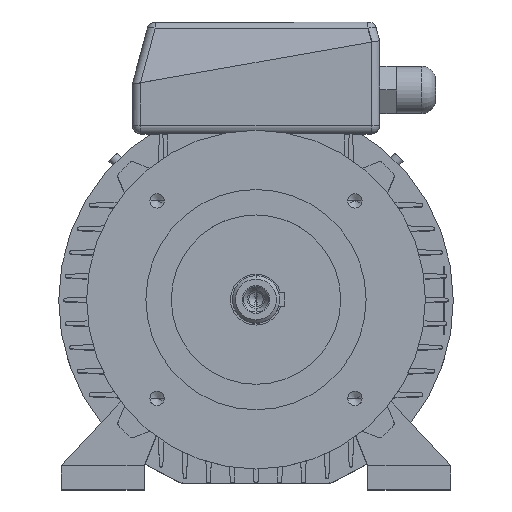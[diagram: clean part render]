
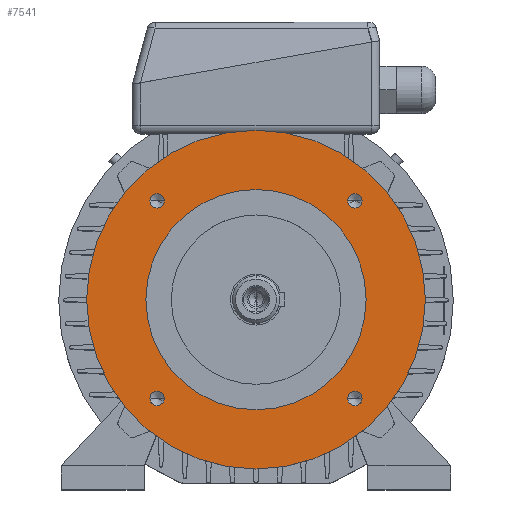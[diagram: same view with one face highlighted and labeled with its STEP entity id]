
A CAD part, top view. The second image highlights one B-rep face of the part: STEP entity #7541.
In plain terms, the highlighted planar face has unit normal (0, 0, 1).
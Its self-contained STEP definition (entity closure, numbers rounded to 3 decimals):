
#118 = EDGE_LOOP ( 'NONE', ( #15427, #15284 ) ) ;
#190 = ORIENTED_EDGE ( 'NONE', *, *, #14454, .F. ) ;
#3673 = CARTESIAN_POINT ( 'NONE',  ( 100., 0., 51. ) ) ;
#3846 = CIRCLE ( 'NONE', #3847, 100. ) ;
#3847 = AXIS2_PLACEMENT_3D ( 'NONE', #3848, #3849, #3850 ) ;
#3848 = CARTESIAN_POINT ( 'NONE',  ( 0., 0., 51. ) ) ;
#3849 = DIRECTION ( 'NONE',  ( 0., 0., 1. ) ) ;
#3850 = DIRECTION ( 'NONE',  ( 1., 0., 0. ) ) ;
#4325 = CARTESIAN_POINT ( 'NONE',  ( -100., 0., 51. ) ) ;
#4561 = CIRCLE ( 'NONE', #4562, 4.25 ) ;
#4562 = AXIS2_PLACEMENT_3D ( 'NONE', #4568, #4569, #4570 ) ;
#4568 = CARTESIAN_POINT ( 'NONE',  ( -58.336, 58.336, 51. ) ) ;
#4569 = DIRECTION ( 'NONE',  ( 0., 0., 1. ) ) ;
#4570 = DIRECTION ( 'NONE',  ( 1., 0., 0. ) ) ;
#4630 = VERTEX_POINT ( 'NONE', #3673 ) ;
#4894 = EDGE_CURVE ( 'NONE', #4630, #5887, #3846, .T. ) ;
#5662 = ORIENTED_EDGE ( 'NONE', *, *, #15011, .F. ) ;
#5803 = CARTESIAN_POINT ( 'NONE',  ( 62.586, -58.336, 51. ) ) ;
#5887 = VERTEX_POINT ( 'NONE', #4325 ) ;
#5946 = FACE_BOUND ( 'NONE', #7280, .T. ) ;
#5947 = FACE_BOUND ( 'NONE', #14321, .T. ) ;
#5948 = FACE_BOUND ( 'NONE', #13793, .T. ) ;
#5949 = FACE_BOUND ( 'NONE', #12283, .T. ) ;
#5961 = FACE_BOUND ( 'NONE', #118, .T. ) ;
#5962 = FACE_OUTER_BOUND ( 'NONE', #15110, .T. ) ;
#5963 = PLANE ( 'NONE',  #5964 ) ;
#5964 = AXIS2_PLACEMENT_3D ( 'NONE', #5965, #5966, #5967 ) ;
#5965 = CARTESIAN_POINT ( 'NONE',  ( 0., 100., 51. ) ) ;
#5966 = DIRECTION ( 'NONE',  ( 0., 0., -1. ) ) ;
#5967 = DIRECTION ( 'NONE',  ( -1., 0., 0. ) ) ;
#6238 = CIRCLE ( 'NONE', #6239, 100. ) ;
#6239 = AXIS2_PLACEMENT_3D ( 'NONE', #6240, #6241, #6242 ) ;
#6240 = CARTESIAN_POINT ( 'NONE',  ( 0., 0., 51. ) ) ;
#6241 = DIRECTION ( 'NONE',  ( 0., 0., 1. ) ) ;
#6242 = DIRECTION ( 'NONE',  ( 1., 0., 0. ) ) ;
#6263 = EDGE_CURVE ( 'NONE', #14949, #15265, #4561, .T. ) ;
#6689 = ORIENTED_EDGE ( 'NONE', *, *, #6263, .F. ) ;
#6823 = CARTESIAN_POINT ( 'NONE',  ( 62.586, 58.336, 51. ) ) ;
#7006 = CIRCLE ( 'NONE', #7007, 4.25 ) ;
#7007 = AXIS2_PLACEMENT_3D ( 'NONE', #7008, #7009, #7010 ) ;
#7008 = CARTESIAN_POINT ( 'NONE',  ( 58.336, 58.336, 51. ) ) ;
#7009 = DIRECTION ( 'NONE',  ( 0., 0., 1. ) ) ;
#7010 = DIRECTION ( 'NONE',  ( 1., 0., 0. ) ) ;
#7278 = VERTEX_POINT ( 'NONE', #5803 ) ;
#7280 = EDGE_LOOP ( 'NONE', ( #6689, #5662 ) ) ;
#7541 = ADVANCED_FACE ( 'NONE', ( #5946, #5947, #5948, #5949, #5961, #5962 ), #5963, .F. ) ;
#7649 = CARTESIAN_POINT ( 'NONE',  ( 54.086, 58.336, 51. ) ) ;
#7998 = EDGE_CURVE ( 'NONE', #5887, #4630, #6238, .T. ) ;
#8202 = CIRCLE ( 'NONE', #8203, 4.25 ) ;
#8203 = AXIS2_PLACEMENT_3D ( 'NONE', #8204, #8212, #8213 ) ;
#8204 = CARTESIAN_POINT ( 'NONE',  ( -58.336, -58.336, 51. ) ) ;
#8212 = DIRECTION ( 'NONE',  ( 0., 0., 1. ) ) ;
#8213 = DIRECTION ( 'NONE',  ( 1., 0., 0. ) ) ;
#9050 = VERTEX_POINT ( 'NONE', #6823 ) ;
#9204 = CIRCLE ( 'NONE', #9205, 4.25 ) ;
#9205 = AXIS2_PLACEMENT_3D ( 'NONE', #9206, #9207, #9208 ) ;
#9206 = CARTESIAN_POINT ( 'NONE',  ( 58.336, -58.336, 51. ) ) ;
#9207 = DIRECTION ( 'NONE',  ( 0., 0., 1. ) ) ;
#9208 = DIRECTION ( 'NONE',  ( 1., 0., 0. ) ) ;
#9232 = CARTESIAN_POINT ( 'NONE',  ( -65., 0., 51. ) ) ;
#9301 = EDGE_CURVE ( 'NONE', #10333, #9050, #7006, .T. ) ;
#9359 = CARTESIAN_POINT ( 'NONE',  ( 65., 0., 51. ) ) ;
#9523 = CIRCLE ( 'NONE', #9524, 65. ) ;
#9524 = AXIS2_PLACEMENT_3D ( 'NONE', #9525, #9526, #9527 ) ;
#9525 = CARTESIAN_POINT ( 'NONE',  ( 0., 0., 51. ) ) ;
#9526 = DIRECTION ( 'NONE',  ( 0., 0., 1. ) ) ;
#9527 = DIRECTION ( 'NONE',  ( 1., 0., 0. ) ) ;
#10221 = CIRCLE ( 'NONE', #10222, 4.25 ) ;
#10222 = AXIS2_PLACEMENT_3D ( 'NONE', #10223, #10224, #10225 ) ;
#10223 = CARTESIAN_POINT ( 'NONE',  ( 58.336, 58.336, 51. ) ) ;
#10224 = DIRECTION ( 'NONE',  ( 0., 0., 1. ) ) ;
#10225 = DIRECTION ( 'NONE',  ( 1., 0., 0. ) ) ;
#10333 = VERTEX_POINT ( 'NONE', #7649 ) ;
#11066 = CARTESIAN_POINT ( 'NONE',  ( -54.086, -58.336, 51. ) ) ;
#11193 = CIRCLE ( 'NONE', #11204, 4.25 ) ;
#11204 = AXIS2_PLACEMENT_3D ( 'NONE', #11205, #11206, #11207 ) ;
#11205 = CARTESIAN_POINT ( 'NONE',  ( -58.336, -58.336, 51. ) ) ;
#11206 = DIRECTION ( 'NONE',  ( 0., 0., 1. ) ) ;
#11207 = DIRECTION ( 'NONE',  ( 1., 0., 0. ) ) ;
#11271 = EDGE_CURVE ( 'NONE', #14392, #14707, #8202, .T. ) ;
#11692 = ORIENTED_EDGE ( 'NONE', *, *, #11271, .F. ) ;
#11719 = CARTESIAN_POINT ( 'NONE',  ( -62.586, -58.336, 51. ) ) ;
#12084 = CIRCLE ( 'NONE', #12085, 4.25 ) ;
#12085 = AXIS2_PLACEMENT_3D ( 'NONE', #12086, #12087, #12088 ) ;
#12086 = CARTESIAN_POINT ( 'NONE',  ( 58.336, -58.336, 51. ) ) ;
#12087 = DIRECTION ( 'NONE',  ( 0., 0., 1. ) ) ;
#12088 = DIRECTION ( 'NONE',  ( 1., 0., 0. ) ) ;
#12283 = EDGE_LOOP ( 'NONE', ( #11692, #190 ) ) ;
#12310 = CARTESIAN_POINT ( 'NONE',  ( -54.086, 58.336, 51. ) ) ;
#12517 = CIRCLE ( 'NONE', #12518, 4.25 ) ;
#12518 = AXIS2_PLACEMENT_3D ( 'NONE', #12519, #12520, #12521 ) ;
#12519 = CARTESIAN_POINT ( 'NONE',  ( -58.336, 58.336, 51. ) ) ;
#12520 = DIRECTION ( 'NONE',  ( 0., 0., 1. ) ) ;
#12521 = DIRECTION ( 'NONE',  ( 1., 0., 0. ) ) ;
#12567 = ORIENTED_EDGE ( 'NONE', *, *, #14862, .F. ) ;
#12775 = CARTESIAN_POINT ( 'NONE',  ( 54.086, -58.336, 51. ) ) ;
#12885 = CIRCLE ( 'NONE', #12886, 65. ) ;
#12886 = AXIS2_PLACEMENT_3D ( 'NONE', #12887, #12888, #12889 ) ;
#12887 = CARTESIAN_POINT ( 'NONE',  ( 0., 0., 51. ) ) ;
#12888 = DIRECTION ( 'NONE',  ( 0., 0., 1. ) ) ;
#12889 = DIRECTION ( 'NONE',  ( 1., 0., 0. ) ) ;
#13104 = CARTESIAN_POINT ( 'NONE',  ( -62.586, 58.336, 51. ) ) ;
#13162 = EDGE_CURVE ( 'NONE', #7278, #15137, #9204, .T. ) ;
#13247 = VERTEX_POINT ( 'NONE', #9232 ) ;
#13497 = VERTEX_POINT ( 'NONE', #9359 ) ;
#13585 = ORIENTED_EDGE ( 'NONE', *, *, #13162, .F. ) ;
#13686 = EDGE_CURVE ( 'NONE', #13497, #13247, #9523, .T. ) ;
#13793 = EDGE_LOOP ( 'NONE', ( #13585, #12567 ) ) ;
#13865 = ORIENTED_EDGE ( 'NONE', *, *, #9301, .F. ) ;
#14016 = EDGE_CURVE ( 'NONE', #9050, #10333, #10221, .T. ) ;
#14127 = ORIENTED_EDGE ( 'NONE', *, *, #14016, .F. ) ;
#14321 = EDGE_LOOP ( 'NONE', ( #14127, #13865 ) ) ;
#14392 = VERTEX_POINT ( 'NONE', #11066 ) ;
#14454 = EDGE_CURVE ( 'NONE', #14707, #14392, #11193, .T. ) ;
#14707 = VERTEX_POINT ( 'NONE', #11719 ) ;
#14808 = ORIENTED_EDGE ( 'NONE', *, *, #7998, .T. ) ;
#14862 = EDGE_CURVE ( 'NONE', #15137, #7278, #12084, .T. ) ;
#14949 = VERTEX_POINT ( 'NONE', #12310 ) ;
#14965 = ORIENTED_EDGE ( 'NONE', *, *, #4894, .T. ) ;
#15011 = EDGE_CURVE ( 'NONE', #15265, #14949, #12517, .T. ) ;
#15110 = EDGE_LOOP ( 'NONE', ( #14965, #14808 ) ) ;
#15137 = VERTEX_POINT ( 'NONE', #12775 ) ;
#15183 = EDGE_CURVE ( 'NONE', #13247, #13497, #12885, .T. ) ;
#15265 = VERTEX_POINT ( 'NONE', #13104 ) ;
#15284 = ORIENTED_EDGE ( 'NONE', *, *, #15183, .F. ) ;
#15427 = ORIENTED_EDGE ( 'NONE', *, *, #13686, .F. ) ;
